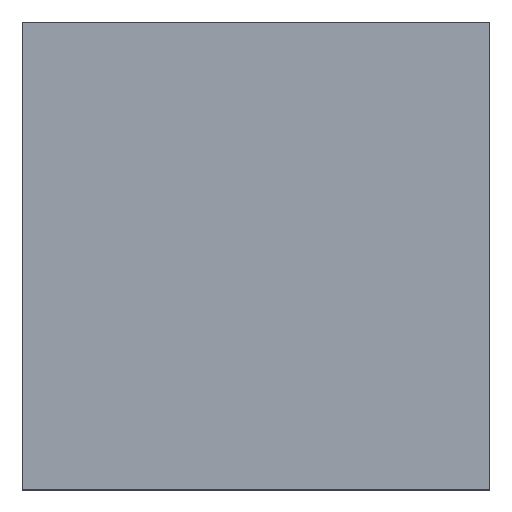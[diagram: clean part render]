
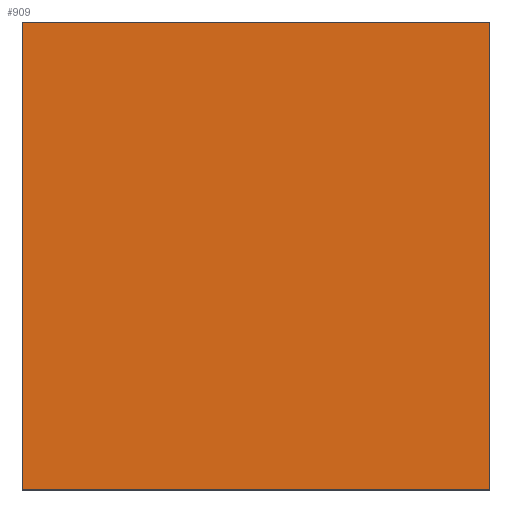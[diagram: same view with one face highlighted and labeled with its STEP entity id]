
A CAD part, top view. The second image highlights one B-rep face of the part: STEP entity #909.
In plain terms, the highlighted planar face has unit normal (0, 0, 1).
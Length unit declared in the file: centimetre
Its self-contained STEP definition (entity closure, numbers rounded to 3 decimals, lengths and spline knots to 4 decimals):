
#63 = LINE ( 'NONE', #1158, #65 ) ;
#65 = VECTOR ( 'NONE', #704, 100. ) ;
#90 = VERTEX_POINT ( 'NONE', #619 ) ;
#108 = EDGE_CURVE ( 'NONE', #272, #90, #63, .T. ) ;
#127 = EDGE_CURVE ( 'NONE', #90, #599, #887, .T. ) ;
#139 = CARTESIAN_POINT ( 'NONE',  ( 0., 0., 1000. ) ) ;
#169 = FACE_OUTER_BOUND ( 'NONE', #957, .T. ) ;
#265 = EDGE_CURVE ( 'NONE', #427, #272, #1046, .T. ) ;
#268 = LINE ( 'NONE', #1086, #767 ) ;
#272 = VERTEX_POINT ( 'NONE', #139 ) ;
#318 = CARTESIAN_POINT ( 'NONE',  ( 0., 1000., 1000. ) ) ;
#349 = DIRECTION ( 'NONE',  ( 0., 1., 0. ) ) ;
#365 = CARTESIAN_POINT ( 'NONE',  ( 0., 1000., 1000. ) ) ;
#408 = DIRECTION ( 'NONE',  ( 0., -1., 0. ) ) ;
#424 = VECTOR ( 'NONE', #408, 100. ) ;
#427 = VERTEX_POINT ( 'NONE', #365 ) ;
#430 = PLANE ( 'NONE',  #615 ) ;
#527 = CARTESIAN_POINT ( 'NONE',  ( 1000., 1000., 1000. ) ) ;
#593 = VECTOR ( 'NONE', #349, 100. ) ;
#599 = VERTEX_POINT ( 'NONE', #527 ) ;
#615 = AXIS2_PLACEMENT_3D ( 'NONE', #1136, #680, #874 ) ;
#619 = CARTESIAN_POINT ( 'NONE',  ( 1000., 0., 1000. ) ) ;
#636 = DIRECTION ( 'NONE',  ( -1., 0., 0. ) ) ;
#680 = DIRECTION ( 'NONE',  ( 0., 0., 1. ) ) ;
#704 = DIRECTION ( 'NONE',  ( 1., 0., 0. ) ) ;
#743 = ORIENTED_EDGE ( 'NONE', *, *, #127, .T. ) ;
#767 = VECTOR ( 'NONE', #636, 100. ) ;
#791 = ORIENTED_EDGE ( 'NONE', *, *, #965, .T. ) ;
#874 = DIRECTION ( 'NONE',  ( 1., 0., 0. ) ) ;
#887 = LINE ( 'NONE', #1163, #593 ) ;
#908 = ORIENTED_EDGE ( 'NONE', *, *, #265, .T. ) ;
#909 = ADVANCED_FACE ( 'NONE', ( #169 ), #430, .T. ) ;
#957 = EDGE_LOOP ( 'NONE', ( #908, #1020, #743, #791 ) ) ;
#965 = EDGE_CURVE ( 'NONE', #599, #427, #268, .T. ) ;
#1020 = ORIENTED_EDGE ( 'NONE', *, *, #108, .T. ) ;
#1046 = LINE ( 'NONE', #318, #424 ) ;
#1086 = CARTESIAN_POINT ( 'NONE',  ( 0., 1000., 1000. ) ) ;
#1136 = CARTESIAN_POINT ( 'NONE',  ( 0., 0., 1000. ) ) ;
#1158 = CARTESIAN_POINT ( 'NONE',  ( 0., 0., 1000. ) ) ;
#1163 = CARTESIAN_POINT ( 'NONE',  ( 1000., 1000., 1000. ) ) ;
